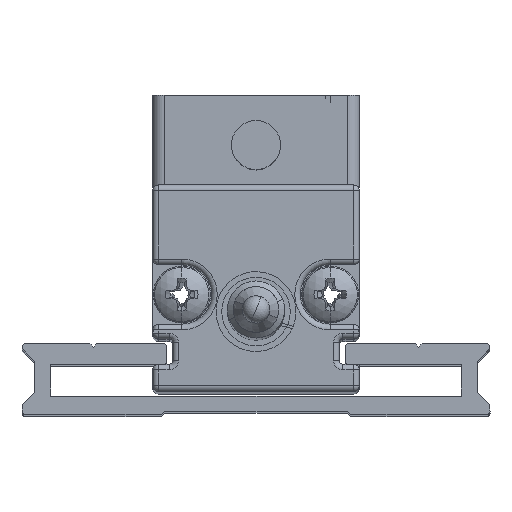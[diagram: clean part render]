
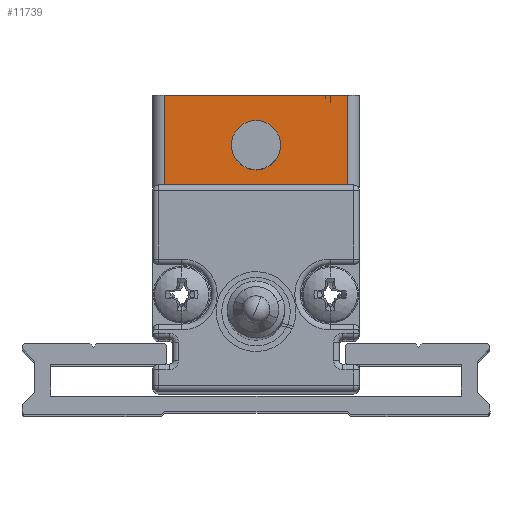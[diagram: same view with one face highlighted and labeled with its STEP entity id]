
A CAD part, top view. The second image highlights one B-rep face of the part: STEP entity #11739.
In plain terms, the highlighted planar face has unit normal (0, 0, 1).
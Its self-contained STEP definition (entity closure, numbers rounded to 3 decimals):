
#898 = DIRECTION ( 'NONE',  ( -1., 0., 0. ) ) ;
#1497 = CARTESIAN_POINT ( 'NONE',  ( -4.607, 11.965, 71.9 ) ) ;
#1622 = DIRECTION ( 'NONE',  ( 0., -1., 0. ) ) ;
#1939 = CARTESIAN_POINT ( 'NONE',  ( -12.657, 10.515, 71.9 ) ) ;
#2059 = EDGE_CURVE ( 'NONE', #9387, #23074, #8012, .T. ) ;
#2223 = ORIENTED_EDGE ( 'NONE', *, *, #6309, .T. ) ;
#2752 = DIRECTION ( 'NONE',  ( 0., 1., 0. ) ) ;
#2926 = EDGE_CURVE ( 'NONE', #23074, #9387, #18277, .T. ) ;
#3067 = AXIS2_PLACEMENT_3D ( 'NONE', #9768, #26053, #1622 ) ;
#3314 = VERTEX_POINT ( 'NONE', #9209 ) ;
#3924 = VECTOR ( 'NONE', #5607, 1000. ) ;
#5607 = DIRECTION ( 'NONE',  ( -1., 0., 0. ) ) ;
#5737 = ORIENTED_EDGE ( 'NONE', *, *, #2059, .F. ) ;
#6309 = EDGE_CURVE ( 'NONE', #6832, #19277, #25450, .T. ) ;
#6472 = VECTOR ( 'NONE', #24587, 1000. ) ;
#6564 = CARTESIAN_POINT ( 'NONE',  ( 3.443, 10.515, 71.9 ) ) ;
#6832 = VERTEX_POINT ( 'NONE', #15509 ) ;
#6850 = DIRECTION ( 'NONE',  ( 0., 0., -1. ) ) ;
#7240 = CARTESIAN_POINT ( 'NONE',  ( -12.657, 18.515, 71.9 ) ) ;
#7449 = DIRECTION ( 'NONE',  ( 0., 0., 1. ) ) ;
#7659 = CARTESIAN_POINT ( 'NONE',  ( -4.607, 16.265, 71.9 ) ) ;
#8012 = CIRCLE ( 'NONE', #3067, 2.15 ) ;
#8020 = EDGE_CURVE ( 'NONE', #14717, #3314, #20517, .T. ) ;
#8824 = CARTESIAN_POINT ( 'NONE',  ( 3.443, 10.515, 71.9 ) ) ;
#9209 = CARTESIAN_POINT ( 'NONE',  ( -12.657, 10.515, 71.9 ) ) ;
#9320 = DIRECTION ( 'NONE',  ( 0., -1., 0. ) ) ;
#9387 = VERTEX_POINT ( 'NONE', #1497 ) ;
#9768 = CARTESIAN_POINT ( 'NONE',  ( -4.607, 14.115, 71.9 ) ) ;
#10303 = AXIS2_PLACEMENT_3D ( 'NONE', #17344, #7449, #9320 ) ;
#10313 = LINE ( 'NONE', #1939, #6472 ) ;
#10350 = EDGE_LOOP ( 'NONE', ( #5737, #10377 ) ) ;
#10377 = ORIENTED_EDGE ( 'NONE', *, *, #2926, .F. ) ;
#10509 = ORIENTED_EDGE ( 'NONE', *, *, #15927, .T. ) ;
#10884 = DIRECTION ( 'NONE',  ( 0., 1., 0. ) ) ;
#11739 = ADVANCED_FACE ( 'NONE', ( #12915, #20539 ), #25041, .F. ) ;
#11807 = ORIENTED_EDGE ( 'NONE', *, *, #26163, .T. ) ;
#12915 = FACE_BOUND ( 'NONE', #10350, .T. ) ;
#14717 = VERTEX_POINT ( 'NONE', #6564 ) ;
#15289 = EDGE_LOOP ( 'NONE', ( #2223, #11807, #15491, #10509 ) ) ;
#15491 = ORIENTED_EDGE ( 'NONE', *, *, #8020, .F. ) ;
#15509 = CARTESIAN_POINT ( 'NONE',  ( 3.443, 18.515, 71.9 ) ) ;
#15635 = VECTOR ( 'NONE', #10884, 1000. ) ;
#15689 = CARTESIAN_POINT ( 'NONE',  ( -13.657, 10.515, 71.9 ) ) ;
#15927 = EDGE_CURVE ( 'NONE', #14717, #6832, #26143, .T. ) ;
#17069 = CARTESIAN_POINT ( 'NONE',  ( -13.657, 18.515, 71.9 ) ) ;
#17344 = CARTESIAN_POINT ( 'NONE',  ( -4.607, 14.115, 71.9 ) ) ;
#17631 = AXIS2_PLACEMENT_3D ( 'NONE', #20921, #6850, #2752 ) ;
#18277 = CIRCLE ( 'NONE', #10303, 2.15 ) ;
#19277 = VERTEX_POINT ( 'NONE', #7240 ) ;
#20517 = LINE ( 'NONE', #15689, #3924 ) ;
#20539 = FACE_OUTER_BOUND ( 'NONE', #15289, .T. ) ;
#20684 = VECTOR ( 'NONE', #898, 1000. ) ;
#20921 = CARTESIAN_POINT ( 'NONE',  ( -13.657, 10.515, 71.9 ) ) ;
#23074 = VERTEX_POINT ( 'NONE', #7659 ) ;
#24587 = DIRECTION ( 'NONE',  ( 0., -1., 0. ) ) ;
#25041 = PLANE ( 'NONE',  #17631 ) ;
#25450 = LINE ( 'NONE', #17069, #20684 ) ;
#26053 = DIRECTION ( 'NONE',  ( 0., 0., 1. ) ) ;
#26143 = LINE ( 'NONE', #8824, #15635 ) ;
#26163 = EDGE_CURVE ( 'NONE', #19277, #3314, #10313, .T. ) ;
